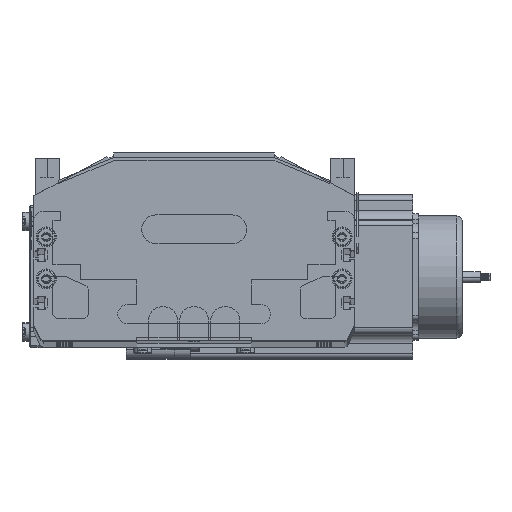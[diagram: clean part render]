
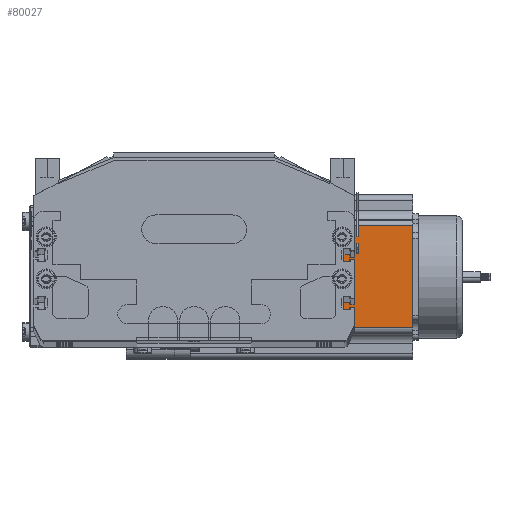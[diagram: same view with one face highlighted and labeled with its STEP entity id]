
A CAD part, top view. The second image highlights one B-rep face of the part: STEP entity #80027.
In plain terms, the highlighted planar face has unit normal (0, 0, 1) as drawn and (0, -1, 0) by its records, which use the part's own axes.
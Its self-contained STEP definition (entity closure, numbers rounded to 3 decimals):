
#58099 = VECTOR ( 'NONE', #58121, 1000. ) ;
#58121 = DIRECTION ( 'NONE',  ( 0., 0., -1. ) ) ;
#58122 = CARTESIAN_POINT ( 'NONE',  ( 16.16, 0., 116.5 ) ) ;
#58132 = LINE ( 'NONE', #58122, #58099 ) ;
#58960 = LINE ( 'NONE', #58997, #59025 ) ;
#58976 = CARTESIAN_POINT ( 'NONE',  ( 0., 0., 116.5 ) ) ;
#58977 = LINE ( 'NONE', #58976, #59031 ) ;
#58978 = VECTOR ( 'NONE', #58993, 1000. ) ;
#58993 = DIRECTION ( 'NONE',  ( 1., 0., 0. ) ) ;
#58994 = CARTESIAN_POINT ( 'NONE',  ( 0., 0., 0. ) ) ;
#58995 = LINE ( 'NONE', #58994, #58978 ) ;
#58996 = DIRECTION ( 'NONE',  ( 0., 0., 1. ) ) ;
#58997 = CARTESIAN_POINT ( 'NONE',  ( 69.74, 0., 116.5 ) ) ;
#59012 = DIRECTION ( 'NONE',  ( 1., 0., 0. ) ) ;
#59019 = CARTESIAN_POINT ( 'NONE',  ( 69.74, 0., 0. ) ) ;
#59025 = VECTOR ( 'NONE', #58996, 1000. ) ;
#59031 = VECTOR ( 'NONE', #59012, 1000. ) ;
#59088 = DIRECTION ( 'NONE',  ( 0., 1., 0. ) ) ;
#59112 = PLANE ( 'NONE',  #59144 ) ;
#59113 = CARTESIAN_POINT ( 'NONE',  ( 0., 0., 116.5 ) ) ;
#59141 = DIRECTION ( 'NONE',  ( 0., 0., 1. ) ) ;
#59144 = AXIS2_PLACEMENT_3D ( 'NONE', #59113, #59088, #59141 ) ;
#59632 = FACE_OUTER_BOUND ( 'NONE', #79930, .T. ) ;
#59633 = CARTESIAN_POINT ( 'NONE',  ( 16.16, 0., 116.5 ) ) ;
#59634 = CARTESIAN_POINT ( 'NONE',  ( 16.16, 0., 0. ) ) ;
#64731 = CARTESIAN_POINT ( 'NONE',  ( 69.74, 0., 116.5 ) ) ;
#79930 = EDGE_LOOP ( 'NONE', ( #79986, #79998, #80019, #79990 ) ) ;
#79959 = VERTEX_POINT ( 'NONE', #64731 ) ;
#79986 = ORIENTED_EDGE ( 'NONE', *, *, #79988, .T. ) ;
#79987 = EDGE_CURVE ( 'NONE', #79991, #79959, #58960, .T. ) ;
#79988 = EDGE_CURVE ( 'NONE', #80030, #79991, #58995, .T. ) ;
#79990 = ORIENTED_EDGE ( 'NONE', *, *, #80020, .T. ) ;
#79991 = VERTEX_POINT ( 'NONE', #59019 ) ;
#79998 = ORIENTED_EDGE ( 'NONE', *, *, #79987, .T. ) ;
#79999 = EDGE_CURVE ( 'NONE', #80021, #79959, #58977, .T. ) ;
#80019 = ORIENTED_EDGE ( 'NONE', *, *, #79999, .F. ) ;
#80020 = EDGE_CURVE ( 'NONE', #80021, #80030, #58132, .T. ) ;
#80021 = VERTEX_POINT ( 'NONE', #59633 ) ;
#80027 = ADVANCED_FACE ( 'NONE', ( #59632 ), #59112, .F. ) ;
#80030 = VERTEX_POINT ( 'NONE', #59634 ) ;
